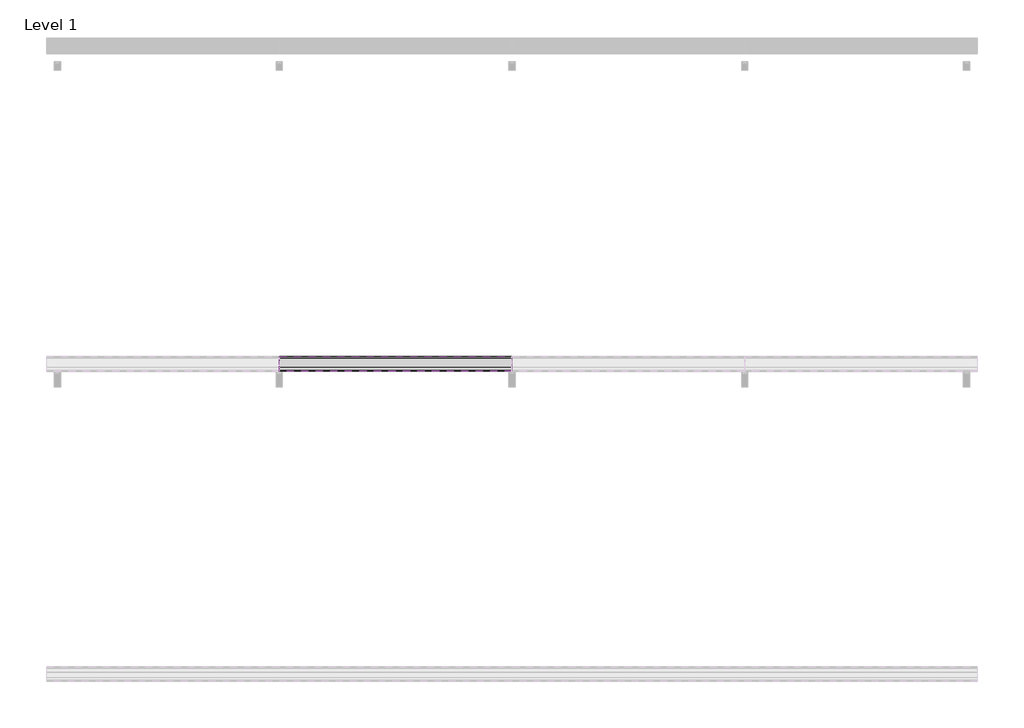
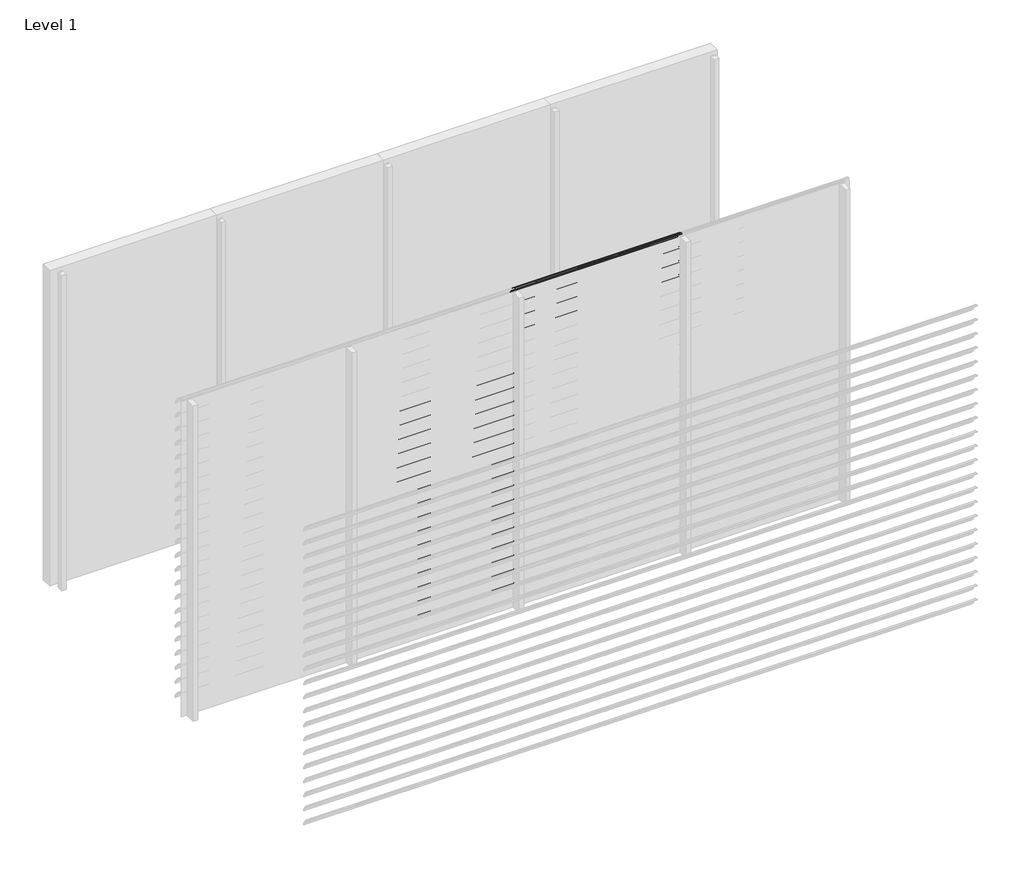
# One storey, part 22 of 57: 20 proxies.
"""IFC4 building model written with IfcOpenShell, lengths in millimetres."""

from ifc_helpers import new_model, si_unit, point, frame, frame_2d, origin, place, context, project, spatial, polyline, circle_curve, trimmed, segment, composite_curve, outline, extrude, element, save

model = new_model("IFC4")

# Units and contexts
model_context = context("Model", 3, world=origin())
ifc_project = project(units=[si_unit("LENGTHUNIT", "METRE", prefix="MILLI")], contexts=[model_context])

# Site, building, storey
site = spatial("IfcSite", under=ifc_project)
building = spatial("IfcBuilding", under=site)
storey = spatial("IfcBuildingStorey", under=building, Name="Level 1", Elevation=0.0)

# Proxies
placement = place(None, origin())
element("IfcBuildingElementProxy", 1, Name="Wall Sweeps", at=placement, inside=storey, context=model_context, shape_type="SweptSolid", body=[
    extrude(outline(composite_curve([segment(trimmed(circle_curve(frame_2d((-35993.7822526, 2218.4913792)), 4.2177474), [point((-35989.6985606, 2219.5462976))], [point((-35993.7822526, 2222.7091266))], False, "CARTESIAN"), True, "CONTINUOUS"), segment(trimmed(circle_curve(frame_2d((-36018.7150834, 2120.2536312)), 105.4456002), [point((-35993.7822526, 2222.7091266))], [point((-35971.7914298, 2214.6832099))], False, "CARTESIAN"), True, "CONTINUOUS"), segment(trimmed(circle_curve(frame_2d((-36061.7199745, 2066.0352476)), 173.7335887), [point((-35971.7914298, 2214.6832099))], [point((-35913.0720121, 2155.9637922))], False, "CARTESIAN"), True, "CONTINUOUS"), segment(trimmed(circle_curve(frame_2d((-36004.9297178, 2104.1860314)), 105.4456002), [point((-35913.0720121, 2155.9637922))], [point((-35903.6249616, 2133.4455765))], False, "CARTESIAN"), True, "CONTINUOUS"), segment(trimmed(circle_curve(frame_2d((-35907.809737, 2132.3307305)), 4.3307305), [point((-35903.6249616, 2133.4455765))], [point((-35909.0769196, 2128.189538))], False, "CARTESIAN"), True, "CONTINUOUS"), segment(polyline([(-35909.0769196, 2128.189538), (-35934.7401984, 2152.9722783)]), True, "CONTINUOUS"), segment(trimmed(circle_curve(frame_2d((-35931.3879574, 2155.2977626)), 4.079877), [point((-35934.7401984, 2152.9722783))], [point((-35930.7310597, 2159.3244091))], False, "CARTESIAN"), True, "CONTINUOUS"), segment(trimmed(circle_curve(frame_2d((-36014.6665585, 2137.2544323)), 86.7885467), [point((-35930.7310597, 2159.3244091))], [point((-35942.3028351, 2185.1683485))], True, "CARTESIAN"), True, "CONTINUOUS"), segment(polyline([(-35942.3028351, 2185.1683485), (-35940.7230099, 2187.9046861)]), True, "CONTINUOUS"), segment(trimmed(circle_curve(frame_2d((-36061.7199745, 2066.0352476)), 171.7335887), [point((-35940.7230099, 2187.9046861))], [point((-35972.7555872, 2212.9289618))], True, "CARTESIAN"), True, "CONTINUOUS"), segment(trimmed(circle_curve(frame_2d((-36018.7150834, 2120.2536312)), 103.4456002), [point((-35972.7555872, 2212.9289618))], [point((-35989.6985606, 2219.5462976))], True, "CARTESIAN"), True, "CONTINUOUS")], self_intersect=False)), frame((1500.0, 0.0, 0.0), z_axis=(1.0, 0.0, 0.0), x_axis=(0.0, 1.0, 0.0)), (0.0, 0.0, 1.0), 1500.0),
])
element("IfcBuildingElementProxy", 2, Name="Wall Sweeps", at=placement, inside=storey, context=model_context, shape_type="SweptSolid", body=[
    extrude(outline(composite_curve([segment(trimmed(circle_curve(frame_2d((-35993.7822526, 2085.4913792)), 4.2177474), [point((-35989.6985606, 2086.5462976))], [point((-35993.7822526, 2089.7091266))], False, "CARTESIAN"), True, "CONTINUOUS"), segment(trimmed(circle_curve(frame_2d((-36018.7150834, 1987.2536312)), 105.4456002), [point((-35993.7822526, 2089.7091266))], [point((-35971.7914298, 2081.6832099))], False, "CARTESIAN"), True, "CONTINUOUS"), segment(trimmed(circle_curve(frame_2d((-36061.7199745, 1933.0352476)), 173.7335887), [point((-35971.7914298, 2081.6832099))], [point((-35913.0720121, 2022.9637922))], False, "CARTESIAN"), True, "CONTINUOUS"), segment(trimmed(circle_curve(frame_2d((-36004.9297178, 1971.1860314)), 105.4456002), [point((-35913.0720121, 2022.9637922))], [point((-35903.6249616, 2000.4455765))], False, "CARTESIAN"), True, "CONTINUOUS"), segment(trimmed(circle_curve(frame_2d((-35907.809737, 1999.3307305)), 4.3307305), [point((-35903.6249616, 2000.4455765))], [point((-35909.0769196, 1995.189538))], False, "CARTESIAN"), True, "CONTINUOUS"), segment(polyline([(-35909.0769196, 1995.189538), (-35934.7401984, 2019.9722783)]), True, "CONTINUOUS"), segment(trimmed(circle_curve(frame_2d((-35931.3879574, 2022.2977626)), 4.079877), [point((-35934.7401984, 2019.9722783))], [point((-35930.7310597, 2026.3244091))], False, "CARTESIAN"), True, "CONTINUOUS"), segment(trimmed(circle_curve(frame_2d((-36014.6665585, 2004.2544323)), 86.7885467), [point((-35930.7310597, 2026.3244091))], [point((-35942.3028351, 2052.1683485))], True, "CARTESIAN"), True, "CONTINUOUS"), segment(polyline([(-35942.3028351, 2052.1683485), (-35940.7230099, 2054.9046861)]), True, "CONTINUOUS"), segment(trimmed(circle_curve(frame_2d((-36061.7199745, 1933.0352476)), 171.7335887), [point((-35940.7230099, 2054.9046861))], [point((-35972.7555872, 2079.9289618))], True, "CARTESIAN"), True, "CONTINUOUS"), segment(trimmed(circle_curve(frame_2d((-36018.7150834, 1987.2536312)), 103.4456002), [point((-35972.7555872, 2079.9289618))], [point((-35989.6985606, 2086.5462976))], True, "CARTESIAN"), True, "CONTINUOUS")], self_intersect=False)), frame((1500.0, 0.0, 0.0), z_axis=(1.0, 0.0, 0.0), x_axis=(0.0, 1.0, 0.0)), (0.0, 0.0, 1.0), 1500.0),
])
element("IfcBuildingElementProxy", 3, Name="Wall Sweeps", at=placement, inside=storey, context=model_context, shape_type="SweptSolid", body=[
    extrude(outline(composite_curve([segment(trimmed(circle_curve(frame_2d((-35993.7822526, 1952.4913792)), 4.2177474), [point((-35989.6985606, 1953.5462976))], [point((-35993.7822526, 1956.7091266))], False, "CARTESIAN"), True, "CONTINUOUS"), segment(trimmed(circle_curve(frame_2d((-36018.7150834, 1854.2536312)), 105.4456002), [point((-35993.7822526, 1956.7091266))], [point((-35971.7914298, 1948.6832099))], False, "CARTESIAN"), True, "CONTINUOUS"), segment(trimmed(circle_curve(frame_2d((-36061.7199745, 1800.0352476)), 173.7335887), [point((-35971.7914298, 1948.6832099))], [point((-35913.0720121, 1889.9637922))], False, "CARTESIAN"), True, "CONTINUOUS"), segment(trimmed(circle_curve(frame_2d((-36004.9297178, 1838.1860314)), 105.4456002), [point((-35913.0720121, 1889.9637922))], [point((-35903.6249616, 1867.4455765))], False, "CARTESIAN"), True, "CONTINUOUS"), segment(trimmed(circle_curve(frame_2d((-35907.809737, 1866.3307305)), 4.3307305), [point((-35903.6249616, 1867.4455765))], [point((-35909.0769196, 1862.189538))], False, "CARTESIAN"), True, "CONTINUOUS"), segment(polyline([(-35909.0769196, 1862.189538), (-35934.7401984, 1886.9722783)]), True, "CONTINUOUS"), segment(trimmed(circle_curve(frame_2d((-35931.3879574, 1889.2977626)), 4.079877), [point((-35934.7401984, 1886.9722783))], [point((-35930.7310597, 1893.3244091))], False, "CARTESIAN"), True, "CONTINUOUS"), segment(trimmed(circle_curve(frame_2d((-36014.6665585, 1871.2544323)), 86.7885467), [point((-35930.7310597, 1893.3244091))], [point((-35942.3028351, 1919.1683485))], True, "CARTESIAN"), True, "CONTINUOUS"), segment(polyline([(-35942.3028351, 1919.1683485), (-35940.7230099, 1921.9046861)]), True, "CONTINUOUS"), segment(trimmed(circle_curve(frame_2d((-36061.7199745, 1800.0352476)), 171.7335887), [point((-35940.7230099, 1921.9046861))], [point((-35972.7555872, 1946.9289618))], True, "CARTESIAN"), True, "CONTINUOUS"), segment(trimmed(circle_curve(frame_2d((-36018.7150834, 1854.2536312)), 103.4456002), [point((-35972.7555872, 1946.9289618))], [point((-35989.6985606, 1953.5462976))], True, "CARTESIAN"), True, "CONTINUOUS")], self_intersect=False)), frame((1500.0, 0.0, 0.0), z_axis=(1.0, 0.0, 0.0), x_axis=(0.0, 1.0, 0.0)), (0.0, 0.0, 1.0), 1500.0),
])
element("IfcBuildingElementProxy", 4, Name="Wall Sweeps", at=placement, inside=storey, context=model_context, shape_type="SweptSolid", body=[
    extrude(outline(composite_curve([segment(trimmed(circle_curve(frame_2d((-35993.7822526, 1819.4913792)), 4.2177474), [point((-35989.6985606, 1820.5462976))], [point((-35993.7822526, 1823.7091266))], False, "CARTESIAN"), True, "CONTINUOUS"), segment(trimmed(circle_curve(frame_2d((-36018.7150834, 1721.2536312)), 105.4456002), [point((-35993.7822526, 1823.7091266))], [point((-35971.7914298, 1815.6832099))], False, "CARTESIAN"), True, "CONTINUOUS"), segment(trimmed(circle_curve(frame_2d((-36061.7199745, 1667.0352476)), 173.7335887), [point((-35971.7914298, 1815.6832099))], [point((-35913.0720121, 1756.9637922))], False, "CARTESIAN"), True, "CONTINUOUS"), segment(trimmed(circle_curve(frame_2d((-36004.9297178, 1705.1860314)), 105.4456002), [point((-35913.0720121, 1756.9637922))], [point((-35903.6249616, 1734.4455765))], False, "CARTESIAN"), True, "CONTINUOUS"), segment(trimmed(circle_curve(frame_2d((-35907.809737, 1733.3307305)), 4.3307305), [point((-35903.6249616, 1734.4455765))], [point((-35909.0769196, 1729.189538))], False, "CARTESIAN"), True, "CONTINUOUS"), segment(polyline([(-35909.0769196, 1729.189538), (-35934.7401984, 1753.9722783)]), True, "CONTINUOUS"), segment(trimmed(circle_curve(frame_2d((-35931.3879574, 1756.2977626)), 4.079877), [point((-35934.7401984, 1753.9722783))], [point((-35930.7310597, 1760.3244091))], False, "CARTESIAN"), True, "CONTINUOUS"), segment(trimmed(circle_curve(frame_2d((-36014.6665585, 1738.2544323)), 86.7885467), [point((-35930.7310597, 1760.3244091))], [point((-35942.3028351, 1786.1683485))], True, "CARTESIAN"), True, "CONTINUOUS"), segment(polyline([(-35942.3028351, 1786.1683485), (-35940.7230099, 1788.9046861)]), True, "CONTINUOUS"), segment(trimmed(circle_curve(frame_2d((-36061.7199745, 1667.0352476)), 171.7335887), [point((-35940.7230099, 1788.9046861))], [point((-35972.7555872, 1813.9289618))], True, "CARTESIAN"), True, "CONTINUOUS"), segment(trimmed(circle_curve(frame_2d((-36018.7150834, 1721.2536312)), 103.4456002), [point((-35972.7555872, 1813.9289618))], [point((-35989.6985606, 1820.5462976))], True, "CARTESIAN"), True, "CONTINUOUS")], self_intersect=False)), frame((1500.0, 0.0, 0.0), z_axis=(1.0, 0.0, 0.0), x_axis=(0.0, 1.0, 0.0)), (0.0, 0.0, 1.0), 1500.0),
])
element("IfcBuildingElementProxy", 5, Name="Wall Sweeps", at=placement, inside=storey, context=model_context, shape_type="SweptSolid", body=[
    extrude(outline(composite_curve([segment(trimmed(circle_curve(frame_2d((-35993.7822526, 1686.4913792)), 4.2177474), [point((-35989.6985606, 1687.5462976))], [point((-35993.7822526, 1690.7091266))], False, "CARTESIAN"), True, "CONTINUOUS"), segment(trimmed(circle_curve(frame_2d((-36018.7150834, 1588.2536312)), 105.4456002), [point((-35993.7822526, 1690.7091266))], [point((-35971.7914298, 1682.6832099))], False, "CARTESIAN"), True, "CONTINUOUS"), segment(trimmed(circle_curve(frame_2d((-36061.7199745, 1534.0352476)), 173.7335887), [point((-35971.7914298, 1682.6832099))], [point((-35913.0720121, 1623.9637922))], False, "CARTESIAN"), True, "CONTINUOUS"), segment(trimmed(circle_curve(frame_2d((-36004.9297178, 1572.1860314)), 105.4456002), [point((-35913.0720121, 1623.9637922))], [point((-35903.6249616, 1601.4455765))], False, "CARTESIAN"), True, "CONTINUOUS"), segment(trimmed(circle_curve(frame_2d((-35907.809737, 1600.3307305)), 4.3307305), [point((-35903.6249616, 1601.4455765))], [point((-35909.0769196, 1596.189538))], False, "CARTESIAN"), True, "CONTINUOUS"), segment(polyline([(-35909.0769196, 1596.189538), (-35934.7401984, 1620.9722783)]), True, "CONTINUOUS"), segment(trimmed(circle_curve(frame_2d((-35931.3879574, 1623.2977626)), 4.079877), [point((-35934.7401984, 1620.9722783))], [point((-35930.7310597, 1627.3244091))], False, "CARTESIAN"), True, "CONTINUOUS"), segment(trimmed(circle_curve(frame_2d((-36014.6665585, 1605.2544323)), 86.7885467), [point((-35930.7310597, 1627.3244091))], [point((-35942.3028351, 1653.1683485))], True, "CARTESIAN"), True, "CONTINUOUS"), segment(polyline([(-35942.3028351, 1653.1683485), (-35940.7230099, 1655.9046861)]), True, "CONTINUOUS"), segment(trimmed(circle_curve(frame_2d((-36061.7199745, 1534.0352476)), 171.7335887), [point((-35940.7230099, 1655.9046861))], [point((-35972.7555872, 1680.9289618))], True, "CARTESIAN"), True, "CONTINUOUS"), segment(trimmed(circle_curve(frame_2d((-36018.7150834, 1588.2536312)), 103.4456002), [point((-35972.7555872, 1680.9289618))], [point((-35989.6985606, 1687.5462976))], True, "CARTESIAN"), True, "CONTINUOUS")], self_intersect=False)), frame((1500.0, 0.0, 0.0), z_axis=(1.0, 0.0, 0.0), x_axis=(0.0, 1.0, 0.0)), (0.0, 0.0, 1.0), 1500.0),
])
element("IfcBuildingElementProxy", 6, Name="Wall Sweeps", at=placement, inside=storey, context=model_context, shape_type="SweptSolid", body=[
    extrude(outline(composite_curve([segment(trimmed(circle_curve(frame_2d((-35993.7822526, 1553.4913792)), 4.2177474), [point((-35989.6985606, 1554.5462976))], [point((-35993.7822526, 1557.7091266))], False, "CARTESIAN"), True, "CONTINUOUS"), segment(trimmed(circle_curve(frame_2d((-36018.7150834, 1455.2536312)), 105.4456002), [point((-35993.7822526, 1557.7091266))], [point((-35971.7914298, 1549.6832099))], False, "CARTESIAN"), True, "CONTINUOUS"), segment(trimmed(circle_curve(frame_2d((-36061.7199745, 1401.0352476)), 173.7335887), [point((-35971.7914298, 1549.6832099))], [point((-35913.0720121, 1490.9637922))], False, "CARTESIAN"), True, "CONTINUOUS"), segment(trimmed(circle_curve(frame_2d((-36004.9297178, 1439.1860314)), 105.4456002), [point((-35913.0720121, 1490.9637922))], [point((-35903.6249616, 1468.4455765))], False, "CARTESIAN"), True, "CONTINUOUS"), segment(trimmed(circle_curve(frame_2d((-35907.809737, 1467.3307305)), 4.3307305), [point((-35903.6249616, 1468.4455765))], [point((-35909.0769196, 1463.189538))], False, "CARTESIAN"), True, "CONTINUOUS"), segment(polyline([(-35909.0769196, 1463.189538), (-35934.7401984, 1487.9722783)]), True, "CONTINUOUS"), segment(trimmed(circle_curve(frame_2d((-35931.3879574, 1490.2977626)), 4.079877), [point((-35934.7401984, 1487.9722783))], [point((-35930.7310597, 1494.3244091))], False, "CARTESIAN"), True, "CONTINUOUS"), segment(trimmed(circle_curve(frame_2d((-36014.6665585, 1472.2544323)), 86.7885467), [point((-35930.7310597, 1494.3244091))], [point((-35942.3028351, 1520.1683485))], True, "CARTESIAN"), True, "CONTINUOUS"), segment(polyline([(-35942.3028351, 1520.1683485), (-35940.7230099, 1522.9046861)]), True, "CONTINUOUS"), segment(trimmed(circle_curve(frame_2d((-36061.7199745, 1401.0352476)), 171.7335887), [point((-35940.7230099, 1522.9046861))], [point((-35972.7555872, 1547.9289618))], True, "CARTESIAN"), True, "CONTINUOUS"), segment(trimmed(circle_curve(frame_2d((-36018.7150834, 1455.2536312)), 103.4456002), [point((-35972.7555872, 1547.9289618))], [point((-35989.6985606, 1554.5462976))], True, "CARTESIAN"), True, "CONTINUOUS")], self_intersect=False)), frame((1500.0, 0.0, 0.0), z_axis=(1.0, 0.0, 0.0), x_axis=(0.0, 1.0, 0.0)), (0.0, 0.0, 1.0), 1500.0),
])
element("IfcBuildingElementProxy", 7, Name="Wall Sweeps", at=placement, inside=storey, context=model_context, shape_type="SweptSolid", body=[
    extrude(outline(composite_curve([segment(trimmed(circle_curve(frame_2d((-35993.7822526, 1420.4913792)), 4.2177474), [point((-35989.6985606, 1421.5462976))], [point((-35993.7822526, 1424.7091266))], False, "CARTESIAN"), True, "CONTINUOUS"), segment(trimmed(circle_curve(frame_2d((-36018.7150834, 1322.2536312)), 105.4456002), [point((-35993.7822526, 1424.7091266))], [point((-35971.7914298, 1416.6832099))], False, "CARTESIAN"), True, "CONTINUOUS"), segment(trimmed(circle_curve(frame_2d((-36061.7199745, 1268.0352476)), 173.7335887), [point((-35971.7914298, 1416.6832099))], [point((-35913.0720121, 1357.9637922))], False, "CARTESIAN"), True, "CONTINUOUS"), segment(trimmed(circle_curve(frame_2d((-36004.9297178, 1306.1860314)), 105.4456002), [point((-35913.0720121, 1357.9637922))], [point((-35903.6249616, 1335.4455765))], False, "CARTESIAN"), True, "CONTINUOUS"), segment(trimmed(circle_curve(frame_2d((-35907.809737, 1334.3307305)), 4.3307305), [point((-35903.6249616, 1335.4455765))], [point((-35909.0769196, 1330.189538))], False, "CARTESIAN"), True, "CONTINUOUS"), segment(polyline([(-35909.0769196, 1330.189538), (-35934.7401984, 1354.9722783)]), True, "CONTINUOUS"), segment(trimmed(circle_curve(frame_2d((-35931.3879574, 1357.2977626)), 4.079877), [point((-35934.7401984, 1354.9722783))], [point((-35930.7310597, 1361.3244091))], False, "CARTESIAN"), True, "CONTINUOUS"), segment(trimmed(circle_curve(frame_2d((-36014.6665585, 1339.2544323)), 86.7885467), [point((-35930.7310597, 1361.3244091))], [point((-35942.3028351, 1387.1683485))], True, "CARTESIAN"), True, "CONTINUOUS"), segment(polyline([(-35942.3028351, 1387.1683485), (-35940.7230099, 1389.9046861)]), True, "CONTINUOUS"), segment(trimmed(circle_curve(frame_2d((-36061.7199745, 1268.0352476)), 171.7335887), [point((-35940.7230099, 1389.9046861))], [point((-35972.7555872, 1414.9289618))], True, "CARTESIAN"), True, "CONTINUOUS"), segment(trimmed(circle_curve(frame_2d((-36018.7150834, 1322.2536312)), 103.4456002), [point((-35972.7555872, 1414.9289618))], [point((-35989.6985606, 1421.5462976))], True, "CARTESIAN"), True, "CONTINUOUS")], self_intersect=False)), frame((1500.0, 0.0, 0.0), z_axis=(1.0, 0.0, 0.0), x_axis=(0.0, 1.0, 0.0)), (0.0, 0.0, 1.0), 1500.0),
])
element("IfcBuildingElementProxy", 8, Name="Wall Sweeps", at=placement, inside=storey, context=model_context, shape_type="SweptSolid", body=[
    extrude(outline(composite_curve([segment(trimmed(circle_curve(frame_2d((-35993.7822526, 1287.4913792)), 4.2177474), [point((-35989.6985606, 1288.5462976))], [point((-35993.7822526, 1291.7091266))], False, "CARTESIAN"), True, "CONTINUOUS"), segment(trimmed(circle_curve(frame_2d((-36018.7150834, 1189.2536312)), 105.4456002), [point((-35993.7822526, 1291.7091266))], [point((-35971.7914298, 1283.6832099))], False, "CARTESIAN"), True, "CONTINUOUS"), segment(trimmed(circle_curve(frame_2d((-36061.7199745, 1135.0352476)), 173.7335887), [point((-35971.7914298, 1283.6832099))], [point((-35913.0720121, 1224.9637922))], False, "CARTESIAN"), True, "CONTINUOUS"), segment(trimmed(circle_curve(frame_2d((-36004.9297178, 1173.1860314)), 105.4456002), [point((-35913.0720121, 1224.9637922))], [point((-35903.6249616, 1202.4455765))], False, "CARTESIAN"), True, "CONTINUOUS"), segment(trimmed(circle_curve(frame_2d((-35907.809737, 1201.3307305)), 4.3307305), [point((-35903.6249616, 1202.4455765))], [point((-35909.0769196, 1197.189538))], False, "CARTESIAN"), True, "CONTINUOUS"), segment(polyline([(-35909.0769196, 1197.189538), (-35934.7401984, 1221.9722783)]), True, "CONTINUOUS"), segment(trimmed(circle_curve(frame_2d((-35931.3879574, 1224.2977626)), 4.079877), [point((-35934.7401984, 1221.9722783))], [point((-35930.7310597, 1228.3244091))], False, "CARTESIAN"), True, "CONTINUOUS"), segment(trimmed(circle_curve(frame_2d((-36014.6665585, 1206.2544323)), 86.7885467), [point((-35930.7310597, 1228.3244091))], [point((-35942.3028351, 1254.1683485))], True, "CARTESIAN"), True, "CONTINUOUS"), segment(polyline([(-35942.3028351, 1254.1683485), (-35940.7230099, 1256.9046861)]), True, "CONTINUOUS"), segment(trimmed(circle_curve(frame_2d((-36061.7199745, 1135.0352476)), 171.7335887), [point((-35940.7230099, 1256.9046861))], [point((-35972.7555872, 1281.9289618))], True, "CARTESIAN"), True, "CONTINUOUS"), segment(trimmed(circle_curve(frame_2d((-36018.7150834, 1189.2536312)), 103.4456002), [point((-35972.7555872, 1281.9289618))], [point((-35989.6985606, 1288.5462976))], True, "CARTESIAN"), True, "CONTINUOUS")], self_intersect=False)), frame((1500.0, 0.0, 0.0), z_axis=(1.0, 0.0, 0.0), x_axis=(0.0, 1.0, 0.0)), (0.0, 0.0, 1.0), 1500.0),
])
element("IfcBuildingElementProxy", 9, Name="Wall Sweeps", at=placement, inside=storey, context=model_context, shape_type="SweptSolid", body=[
    extrude(outline(composite_curve([segment(trimmed(circle_curve(frame_2d((-35993.7822526, 1154.4913792)), 4.2177474), [point((-35989.6985606, 1155.5462976))], [point((-35993.7822526, 1158.7091266))], False, "CARTESIAN"), True, "CONTINUOUS"), segment(trimmed(circle_curve(frame_2d((-36018.7150834, 1056.2536312)), 105.4456002), [point((-35993.7822526, 1158.7091266))], [point((-35971.7914298, 1150.6832099))], False, "CARTESIAN"), True, "CONTINUOUS"), segment(trimmed(circle_curve(frame_2d((-36061.7199745, 1002.0352476)), 173.7335887), [point((-35971.7914298, 1150.6832099))], [point((-35913.0720121, 1091.9637922))], False, "CARTESIAN"), True, "CONTINUOUS"), segment(trimmed(circle_curve(frame_2d((-36004.9297178, 1040.1860314)), 105.4456002), [point((-35913.0720121, 1091.9637922))], [point((-35903.6249616, 1069.4455765))], False, "CARTESIAN"), True, "CONTINUOUS"), segment(trimmed(circle_curve(frame_2d((-35907.809737, 1068.3307305)), 4.3307305), [point((-35903.6249616, 1069.4455765))], [point((-35909.0769196, 1064.189538))], False, "CARTESIAN"), True, "CONTINUOUS"), segment(polyline([(-35909.0769196, 1064.189538), (-35934.7401984, 1088.9722783)]), True, "CONTINUOUS"), segment(trimmed(circle_curve(frame_2d((-35931.3879574, 1091.2977626)), 4.079877), [point((-35934.7401984, 1088.9722783))], [point((-35930.7310597, 1095.3244091))], False, "CARTESIAN"), True, "CONTINUOUS"), segment(trimmed(circle_curve(frame_2d((-36014.6665585, 1073.2544323)), 86.7885467), [point((-35930.7310597, 1095.3244091))], [point((-35942.3028351, 1121.1683485))], True, "CARTESIAN"), True, "CONTINUOUS"), segment(polyline([(-35942.3028351, 1121.1683485), (-35940.7230099, 1123.9046861)]), True, "CONTINUOUS"), segment(trimmed(circle_curve(frame_2d((-36061.7199745, 1002.0352476)), 171.7335887), [point((-35940.7230099, 1123.9046861))], [point((-35972.7555872, 1148.9289618))], True, "CARTESIAN"), True, "CONTINUOUS"), segment(trimmed(circle_curve(frame_2d((-36018.7150834, 1056.2536312)), 103.4456002), [point((-35972.7555872, 1148.9289618))], [point((-35989.6985606, 1155.5462976))], True, "CARTESIAN"), True, "CONTINUOUS")], self_intersect=False)), frame((1500.0, 0.0, 0.0), z_axis=(1.0, 0.0, 0.0), x_axis=(0.0, 1.0, 0.0)), (0.0, 0.0, 1.0), 1500.0),
])
element("IfcBuildingElementProxy", 10, Name="Wall Sweeps", at=placement, inside=storey, context=model_context, shape_type="SweptSolid", body=[
    extrude(outline(composite_curve([segment(trimmed(circle_curve(frame_2d((-35993.7822526, 1021.4913792)), 4.2177474), [point((-35989.6985606, 1022.5462976))], [point((-35993.7822526, 1025.7091266))], False, "CARTESIAN"), True, "CONTINUOUS"), segment(trimmed(circle_curve(frame_2d((-36018.7150834, 923.2536312)), 105.4456002), [point((-35993.7822526, 1025.7091266))], [point((-35971.7914298, 1017.6832099))], False, "CARTESIAN"), True, "CONTINUOUS"), segment(trimmed(circle_curve(frame_2d((-36061.7199745, 869.0352476)), 173.7335887), [point((-35971.7914298, 1017.6832099))], [point((-35913.0720121, 958.9637922))], False, "CARTESIAN"), True, "CONTINUOUS"), segment(trimmed(circle_curve(frame_2d((-36004.9297178, 907.1860314)), 105.4456002), [point((-35913.0720121, 958.9637922))], [point((-35903.6249616, 936.4455765))], False, "CARTESIAN"), True, "CONTINUOUS"), segment(trimmed(circle_curve(frame_2d((-35907.809737, 935.3307305)), 4.3307305), [point((-35903.6249616, 936.4455765))], [point((-35909.0769196, 931.189538))], False, "CARTESIAN"), True, "CONTINUOUS"), segment(polyline([(-35909.0769196, 931.189538), (-35934.7401984, 955.9722783)]), True, "CONTINUOUS"), segment(trimmed(circle_curve(frame_2d((-35931.3879574, 958.2977626)), 4.079877), [point((-35934.7401984, 955.9722783))], [point((-35930.7310597, 962.3244091))], False, "CARTESIAN"), True, "CONTINUOUS"), segment(trimmed(circle_curve(frame_2d((-36014.6665585, 940.2544323)), 86.7885467), [point((-35930.7310597, 962.3244091))], [point((-35942.3028351, 988.1683485))], True, "CARTESIAN"), True, "CONTINUOUS"), segment(polyline([(-35942.3028351, 988.1683485), (-35940.7230099, 990.9046861)]), True, "CONTINUOUS"), segment(trimmed(circle_curve(frame_2d((-36061.7199745, 869.0352476)), 171.7335887), [point((-35940.7230099, 990.9046861))], [point((-35972.7555872, 1015.9289618))], True, "CARTESIAN"), True, "CONTINUOUS"), segment(trimmed(circle_curve(frame_2d((-36018.7150834, 923.2536312)), 103.4456002), [point((-35972.7555872, 1015.9289618))], [point((-35989.6985606, 1022.5462976))], True, "CARTESIAN"), True, "CONTINUOUS")], self_intersect=False)), frame((1500.0, 0.0, 0.0), z_axis=(1.0, 0.0, 0.0), x_axis=(0.0, 1.0, 0.0)), (0.0, 0.0, 1.0), 1500.0),
])
element("IfcBuildingElementProxy", 11, Name="Wall Sweeps", at=placement, inside=storey, context=model_context, shape_type="SweptSolid", body=[
    extrude(outline(composite_curve([segment(trimmed(circle_curve(frame_2d((-35993.7822526, 888.4913792)), 4.2177474), [point((-35989.6985606, 889.5462976))], [point((-35993.7822526, 892.7091266))], False, "CARTESIAN"), True, "CONTINUOUS"), segment(trimmed(circle_curve(frame_2d((-36018.7150834, 790.2536312)), 105.4456002), [point((-35993.7822526, 892.7091266))], [point((-35971.7914298, 884.6832099))], False, "CARTESIAN"), True, "CONTINUOUS"), segment(trimmed(circle_curve(frame_2d((-36061.7199745, 736.0352476)), 173.7335887), [point((-35971.7914298, 884.6832099))], [point((-35913.0720121, 825.9637922))], False, "CARTESIAN"), True, "CONTINUOUS"), segment(trimmed(circle_curve(frame_2d((-36004.9297178, 774.1860314)), 105.4456002), [point((-35913.0720121, 825.9637922))], [point((-35903.6249616, 803.4455765))], False, "CARTESIAN"), True, "CONTINUOUS"), segment(trimmed(circle_curve(frame_2d((-35907.809737, 802.3307305)), 4.3307305), [point((-35903.6249616, 803.4455765))], [point((-35909.0769196, 798.189538))], False, "CARTESIAN"), True, "CONTINUOUS"), segment(polyline([(-35909.0769196, 798.189538), (-35934.7401984, 822.9722783)]), True, "CONTINUOUS"), segment(trimmed(circle_curve(frame_2d((-35931.3879574, 825.2977626)), 4.079877), [point((-35934.7401984, 822.9722783))], [point((-35930.7310597, 829.3244091))], False, "CARTESIAN"), True, "CONTINUOUS"), segment(trimmed(circle_curve(frame_2d((-36014.6665585, 807.2544323)), 86.7885467), [point((-35930.7310597, 829.3244091))], [point((-35942.3028351, 855.1683485))], True, "CARTESIAN"), True, "CONTINUOUS"), segment(polyline([(-35942.3028351, 855.1683485), (-35940.7230099, 857.9046861)]), True, "CONTINUOUS"), segment(trimmed(circle_curve(frame_2d((-36061.7199745, 736.0352476)), 171.7335887), [point((-35940.7230099, 857.9046861))], [point((-35972.7555872, 882.9289618))], True, "CARTESIAN"), True, "CONTINUOUS"), segment(trimmed(circle_curve(frame_2d((-36018.7150834, 790.2536312)), 103.4456002), [point((-35972.7555872, 882.9289618))], [point((-35989.6985606, 889.5462976))], True, "CARTESIAN"), True, "CONTINUOUS")], self_intersect=False)), frame((1500.0, 0.0, 0.0), z_axis=(1.0, 0.0, 0.0), x_axis=(0.0, 1.0, 0.0)), (0.0, 0.0, 1.0), 1500.0),
])
element("IfcBuildingElementProxy", 12, Name="Wall Sweeps", at=placement, inside=storey, context=model_context, shape_type="SweptSolid", body=[
    extrude(outline(composite_curve([segment(trimmed(circle_curve(frame_2d((-35993.7822526, 755.4913792)), 4.2177474), [point((-35989.6985606, 756.5462976))], [point((-35993.7822526, 759.7091266))], False, "CARTESIAN"), True, "CONTINUOUS"), segment(trimmed(circle_curve(frame_2d((-36018.7150834, 657.2536312)), 105.4456002), [point((-35993.7822526, 759.7091266))], [point((-35971.7914298, 751.6832099))], False, "CARTESIAN"), True, "CONTINUOUS"), segment(trimmed(circle_curve(frame_2d((-36061.7199745, 603.0352476)), 173.7335887), [point((-35971.7914298, 751.6832099))], [point((-35913.0720121, 692.9637922))], False, "CARTESIAN"), True, "CONTINUOUS"), segment(trimmed(circle_curve(frame_2d((-36004.9297178, 641.1860314)), 105.4456002), [point((-35913.0720121, 692.9637922))], [point((-35903.6249616, 670.4455765))], False, "CARTESIAN"), True, "CONTINUOUS"), segment(trimmed(circle_curve(frame_2d((-35907.809737, 669.3307305)), 4.3307305), [point((-35903.6249616, 670.4455765))], [point((-35909.0769196, 665.189538))], False, "CARTESIAN"), True, "CONTINUOUS"), segment(polyline([(-35909.0769196, 665.189538), (-35934.7401984, 689.9722783)]), True, "CONTINUOUS"), segment(trimmed(circle_curve(frame_2d((-35931.3879574, 692.2977626)), 4.079877), [point((-35934.7401984, 689.9722783))], [point((-35930.7310597, 696.3244091))], False, "CARTESIAN"), True, "CONTINUOUS"), segment(trimmed(circle_curve(frame_2d((-36014.6665585, 674.2544323)), 86.7885467), [point((-35930.7310597, 696.3244091))], [point((-35942.3028351, 722.1683485))], True, "CARTESIAN"), True, "CONTINUOUS"), segment(polyline([(-35942.3028351, 722.1683485), (-35940.7230099, 724.9046861)]), True, "CONTINUOUS"), segment(trimmed(circle_curve(frame_2d((-36061.7199745, 603.0352476)), 171.7335887), [point((-35940.7230099, 724.9046861))], [point((-35972.7555872, 749.9289618))], True, "CARTESIAN"), True, "CONTINUOUS"), segment(trimmed(circle_curve(frame_2d((-36018.7150834, 657.2536312)), 103.4456002), [point((-35972.7555872, 749.9289618))], [point((-35989.6985606, 756.5462976))], True, "CARTESIAN"), True, "CONTINUOUS")], self_intersect=False)), frame((1500.0, 0.0, 0.0), z_axis=(1.0, 0.0, 0.0), x_axis=(0.0, 1.0, 0.0)), (0.0, 0.0, 1.0), 1500.0),
])
element("IfcBuildingElementProxy", 13, Name="Wall Sweeps", at=placement, inside=storey, context=model_context, shape_type="SweptSolid", body=[
    extrude(outline(composite_curve([segment(trimmed(circle_curve(frame_2d((-35993.7822526, 622.4913792)), 4.2177474), [point((-35989.6985606, 623.5462976))], [point((-35993.7822526, 626.7091266))], False, "CARTESIAN"), True, "CONTINUOUS"), segment(trimmed(circle_curve(frame_2d((-36018.7150834, 524.2536312)), 105.4456002), [point((-35993.7822526, 626.7091266))], [point((-35971.7914298, 618.6832099))], False, "CARTESIAN"), True, "CONTINUOUS"), segment(trimmed(circle_curve(frame_2d((-36061.7199745, 470.0352476)), 173.7335887), [point((-35971.7914298, 618.6832099))], [point((-35913.0720121, 559.9637922))], False, "CARTESIAN"), True, "CONTINUOUS"), segment(trimmed(circle_curve(frame_2d((-36004.9297178, 508.1860314)), 105.4456002), [point((-35913.0720121, 559.9637922))], [point((-35903.6249616, 537.4455765))], False, "CARTESIAN"), True, "CONTINUOUS"), segment(trimmed(circle_curve(frame_2d((-35907.809737, 536.3307305)), 4.3307305), [point((-35903.6249616, 537.4455765))], [point((-35909.0769196, 532.189538))], False, "CARTESIAN"), True, "CONTINUOUS"), segment(polyline([(-35909.0769196, 532.189538), (-35934.7401984, 556.9722783)]), True, "CONTINUOUS"), segment(trimmed(circle_curve(frame_2d((-35931.3879574, 559.2977626)), 4.079877), [point((-35934.7401984, 556.9722783))], [point((-35930.7310597, 563.3244091))], False, "CARTESIAN"), True, "CONTINUOUS"), segment(trimmed(circle_curve(frame_2d((-36014.6665585, 541.2544323)), 86.7885467), [point((-35930.7310597, 563.3244091))], [point((-35942.3028351, 589.1683485))], True, "CARTESIAN"), True, "CONTINUOUS"), segment(polyline([(-35942.3028351, 589.1683485), (-35940.7230099, 591.9046861)]), True, "CONTINUOUS"), segment(trimmed(circle_curve(frame_2d((-36061.7199745, 470.0352476)), 171.7335887), [point((-35940.7230099, 591.9046861))], [point((-35972.7555872, 616.9289618))], True, "CARTESIAN"), True, "CONTINUOUS"), segment(trimmed(circle_curve(frame_2d((-36018.7150834, 524.2536312)), 103.4456002), [point((-35972.7555872, 616.9289618))], [point((-35989.6985606, 623.5462976))], True, "CARTESIAN"), True, "CONTINUOUS")], self_intersect=False)), frame((1500.0, 0.0, 0.0), z_axis=(1.0, 0.0, 0.0), x_axis=(0.0, 1.0, 0.0)), (0.0, 0.0, 1.0), 1500.0),
])
element("IfcBuildingElementProxy", 14, Name="Wall Sweeps", at=placement, inside=storey, context=model_context, shape_type="SweptSolid", body=[
    extrude(outline(composite_curve([segment(trimmed(circle_curve(frame_2d((-35993.7822526, 489.4913792)), 4.2177474), [point((-35989.6985606, 490.5462976))], [point((-35993.7822526, 493.7091266))], False, "CARTESIAN"), True, "CONTINUOUS"), segment(trimmed(circle_curve(frame_2d((-36018.7150834, 391.2536312)), 105.4456002), [point((-35993.7822526, 493.7091266))], [point((-35971.7914298, 485.6832099))], False, "CARTESIAN"), True, "CONTINUOUS"), segment(trimmed(circle_curve(frame_2d((-36061.7199745, 337.0352476)), 173.7335887), [point((-35971.7914298, 485.6832099))], [point((-35913.0720121, 426.9637922))], False, "CARTESIAN"), True, "CONTINUOUS"), segment(trimmed(circle_curve(frame_2d((-36004.9297178, 375.1860314)), 105.4456002), [point((-35913.0720121, 426.9637922))], [point((-35903.6249616, 404.4455765))], False, "CARTESIAN"), True, "CONTINUOUS"), segment(trimmed(circle_curve(frame_2d((-35907.809737, 403.3307305)), 4.3307305), [point((-35903.6249616, 404.4455765))], [point((-35909.0769196, 399.189538))], False, "CARTESIAN"), True, "CONTINUOUS"), segment(polyline([(-35909.0769196, 399.189538), (-35934.7401984, 423.9722783)]), True, "CONTINUOUS"), segment(trimmed(circle_curve(frame_2d((-35931.3879574, 426.2977626)), 4.079877), [point((-35934.7401984, 423.9722783))], [point((-35930.7310597, 430.3244091))], False, "CARTESIAN"), True, "CONTINUOUS"), segment(trimmed(circle_curve(frame_2d((-36014.6665585, 408.2544323)), 86.7885467), [point((-35930.7310597, 430.3244091))], [point((-35942.3028351, 456.1683485))], True, "CARTESIAN"), True, "CONTINUOUS"), segment(polyline([(-35942.3028351, 456.1683485), (-35940.7230099, 458.9046861)]), True, "CONTINUOUS"), segment(trimmed(circle_curve(frame_2d((-36061.7199745, 337.0352476)), 171.7335887), [point((-35940.7230099, 458.9046861))], [point((-35972.7555872, 483.9289618))], True, "CARTESIAN"), True, "CONTINUOUS"), segment(trimmed(circle_curve(frame_2d((-36018.7150834, 391.2536312)), 103.4456002), [point((-35972.7555872, 483.9289618))], [point((-35989.6985606, 490.5462976))], True, "CARTESIAN"), True, "CONTINUOUS")], self_intersect=False)), frame((1500.0, 0.0, 0.0), z_axis=(1.0, 0.0, 0.0), x_axis=(0.0, 1.0, 0.0)), (0.0, 0.0, 1.0), 1500.0),
])
element("IfcBuildingElementProxy", 15, Name="Wall Sweeps", at=placement, inside=storey, context=model_context, shape_type="SweptSolid", body=[
    extrude(outline(composite_curve([segment(trimmed(circle_curve(frame_2d((-35993.7822526, 356.4913792)), 4.2177474), [point((-35989.6985606, 357.5462976))], [point((-35993.7822526, 360.7091266))], False, "CARTESIAN"), True, "CONTINUOUS"), segment(trimmed(circle_curve(frame_2d((-36018.7150834, 258.2536312)), 105.4456002), [point((-35993.7822526, 360.7091266))], [point((-35971.7914298, 352.6832099))], False, "CARTESIAN"), True, "CONTINUOUS"), segment(trimmed(circle_curve(frame_2d((-36061.7199745, 204.0352476)), 173.7335887), [point((-35971.7914298, 352.6832099))], [point((-35913.0720121, 293.9637922))], False, "CARTESIAN"), True, "CONTINUOUS"), segment(trimmed(circle_curve(frame_2d((-36004.9297178, 242.1860314)), 105.4456002), [point((-35913.0720121, 293.9637922))], [point((-35903.6249616, 271.4455765))], False, "CARTESIAN"), True, "CONTINUOUS"), segment(trimmed(circle_curve(frame_2d((-35907.809737, 270.3307305)), 4.3307305), [point((-35903.6249616, 271.4455765))], [point((-35909.0769196, 266.189538))], False, "CARTESIAN"), True, "CONTINUOUS"), segment(polyline([(-35909.0769196, 266.189538), (-35934.7401984, 290.9722783)]), True, "CONTINUOUS"), segment(trimmed(circle_curve(frame_2d((-35931.3879574, 293.2977626)), 4.079877), [point((-35934.7401984, 290.9722783))], [point((-35930.7310597, 297.3244091))], False, "CARTESIAN"), True, "CONTINUOUS"), segment(trimmed(circle_curve(frame_2d((-36014.6665585, 275.2544323)), 86.7885467), [point((-35930.7310597, 297.3244091))], [point((-35942.3028351, 323.1683485))], True, "CARTESIAN"), True, "CONTINUOUS"), segment(polyline([(-35942.3028351, 323.1683485), (-35940.7230099, 325.9046861)]), True, "CONTINUOUS"), segment(trimmed(circle_curve(frame_2d((-36061.7199745, 204.0352476)), 171.7335887), [point((-35940.7230099, 325.9046861))], [point((-35972.7555872, 350.9289618))], True, "CARTESIAN"), True, "CONTINUOUS"), segment(trimmed(circle_curve(frame_2d((-36018.7150834, 258.2536312)), 103.4456002), [point((-35972.7555872, 350.9289618))], [point((-35989.6985606, 357.5462976))], True, "CARTESIAN"), True, "CONTINUOUS")], self_intersect=False)), frame((1500.0, 0.0, 0.0), z_axis=(1.0, 0.0, 0.0), x_axis=(0.0, 1.0, 0.0)), (0.0, 0.0, 1.0), 1500.0),
])
element("IfcBuildingElementProxy", 16, Name="Wall Sweeps", at=placement, inside=storey, context=model_context, shape_type="SweptSolid", body=[
    extrude(outline(composite_curve([segment(trimmed(circle_curve(frame_2d((-35993.7822526, 223.4913792)), 4.2177474), [point((-35989.6985606, 224.5462976))], [point((-35993.7822526, 227.7091266))], False, "CARTESIAN"), True, "CONTINUOUS"), segment(trimmed(circle_curve(frame_2d((-36018.7150834, 125.2536312)), 105.4456002), [point((-35993.7822526, 227.7091266))], [point((-35971.7914298, 219.6832099))], False, "CARTESIAN"), True, "CONTINUOUS"), segment(trimmed(circle_curve(frame_2d((-36061.7199745, 71.0352476)), 173.7335887), [point((-35971.7914298, 219.6832099))], [point((-35913.0720121, 160.9637922))], False, "CARTESIAN"), True, "CONTINUOUS"), segment(trimmed(circle_curve(frame_2d((-36004.9297178, 109.1860314)), 105.4456002), [point((-35913.0720121, 160.9637922))], [point((-35903.6249616, 138.4455765))], False, "CARTESIAN"), True, "CONTINUOUS"), segment(trimmed(circle_curve(frame_2d((-35907.809737, 137.3307305)), 4.3307305), [point((-35903.6249616, 138.4455765))], [point((-35909.0769196, 133.189538))], False, "CARTESIAN"), True, "CONTINUOUS"), segment(polyline([(-35909.0769196, 133.189538), (-35934.7401984, 157.9722783)]), True, "CONTINUOUS"), segment(trimmed(circle_curve(frame_2d((-35931.3879574, 160.2977626)), 4.079877), [point((-35934.7401984, 157.9722783))], [point((-35930.7310597, 164.3244091))], False, "CARTESIAN"), True, "CONTINUOUS"), segment(trimmed(circle_curve(frame_2d((-36014.6665585, 142.2544323)), 86.7885467), [point((-35930.7310597, 164.3244091))], [point((-35942.3028351, 190.1683485))], True, "CARTESIAN"), True, "CONTINUOUS"), segment(polyline([(-35942.3028351, 190.1683485), (-35940.7230099, 192.9046861)]), True, "CONTINUOUS"), segment(trimmed(circle_curve(frame_2d((-36061.7199745, 71.0352476)), 171.7335887), [point((-35940.7230099, 192.9046861))], [point((-35972.7555872, 217.9289618))], True, "CARTESIAN"), True, "CONTINUOUS"), segment(trimmed(circle_curve(frame_2d((-36018.7150834, 125.2536312)), 103.4456002), [point((-35972.7555872, 217.9289618))], [point((-35989.6985606, 224.5462976))], True, "CARTESIAN"), True, "CONTINUOUS")], self_intersect=False)), frame((1500.0, 0.0, 0.0), z_axis=(1.0, 0.0, 0.0), x_axis=(0.0, 1.0, 0.0)), (0.0, 0.0, 1.0), 1500.0),
])
element("IfcBuildingElementProxy", 17, Name="Wall Sweeps", at=placement, inside=storey, context=model_context, shape_type="SweptSolid", body=[
    extrude(outline(composite_curve([segment(trimmed(circle_curve(frame_2d((-35993.7822526, 3016.4913792)), 4.2177474), [point((-35989.6985606, 3017.5462976))], [point((-35993.7822526, 3020.7091266))], False, "CARTESIAN"), True, "CONTINUOUS"), segment(trimmed(circle_curve(frame_2d((-36018.7150834, 2918.2536312)), 105.4456002), [point((-35993.7822526, 3020.7091266))], [point((-35971.7914298, 3012.6832099))], False, "CARTESIAN"), True, "CONTINUOUS"), segment(trimmed(circle_curve(frame_2d((-36061.7199745, 2864.0352476)), 173.7335887), [point((-35971.7914298, 3012.6832099))], [point((-35913.0720121, 2953.9637922))], False, "CARTESIAN"), True, "CONTINUOUS"), segment(trimmed(circle_curve(frame_2d((-36004.9297178, 2902.1860314)), 105.4456002), [point((-35913.0720121, 2953.9637922))], [point((-35903.6249616, 2931.4455765))], False, "CARTESIAN"), True, "CONTINUOUS"), segment(trimmed(circle_curve(frame_2d((-35907.809737, 2930.3307305)), 4.3307305), [point((-35903.6249616, 2931.4455765))], [point((-35909.0769196, 2926.189538))], False, "CARTESIAN"), True, "CONTINUOUS"), segment(polyline([(-35909.0769196, 2926.189538), (-35934.7401984, 2950.9722783)]), True, "CONTINUOUS"), segment(trimmed(circle_curve(frame_2d((-35931.3879574, 2953.2977626)), 4.079877), [point((-35934.7401984, 2950.9722783))], [point((-35930.7310597, 2957.3244091))], False, "CARTESIAN"), True, "CONTINUOUS"), segment(trimmed(circle_curve(frame_2d((-36014.6665585, 2935.2544323)), 86.7885467), [point((-35930.7310597, 2957.3244091))], [point((-35942.3028351, 2983.1683485))], True, "CARTESIAN"), True, "CONTINUOUS"), segment(polyline([(-35942.3028351, 2983.1683485), (-35940.7230099, 2985.9046861)]), True, "CONTINUOUS"), segment(trimmed(circle_curve(frame_2d((-36061.7199745, 2864.0352476)), 171.7335887), [point((-35940.7230099, 2985.9046861))], [point((-35972.7555872, 3010.9289618))], True, "CARTESIAN"), True, "CONTINUOUS"), segment(trimmed(circle_curve(frame_2d((-36018.7150834, 2918.2536312)), 103.4456002), [point((-35972.7555872, 3010.9289618))], [point((-35989.6985606, 3017.5462976))], True, "CARTESIAN"), True, "CONTINUOUS")], self_intersect=False)), frame((3000.0, 0.0, 0.0), z_axis=(1.0, 0.0, 0.0), x_axis=(0.0, 1.0, 0.0)), (0.0, 0.0, 1.0), 1500.0),
])
element("IfcBuildingElementProxy", 18, Name="Wall Sweeps", at=placement, inside=storey, context=model_context, shape_type="SweptSolid", body=[
    extrude(outline(composite_curve([segment(trimmed(circle_curve(frame_2d((-35993.7822526, 2883.4913792)), 4.2177474), [point((-35989.6985606, 2884.5462976))], [point((-35993.7822526, 2887.7091266))], False, "CARTESIAN"), True, "CONTINUOUS"), segment(trimmed(circle_curve(frame_2d((-36018.7150834, 2785.2536312)), 105.4456002), [point((-35993.7822526, 2887.7091266))], [point((-35971.7914298, 2879.6832099))], False, "CARTESIAN"), True, "CONTINUOUS"), segment(trimmed(circle_curve(frame_2d((-36061.7199745, 2731.0352476)), 173.7335887), [point((-35971.7914298, 2879.6832099))], [point((-35913.0720121, 2820.9637922))], False, "CARTESIAN"), True, "CONTINUOUS"), segment(trimmed(circle_curve(frame_2d((-36004.9297178, 2769.1860314)), 105.4456002), [point((-35913.0720121, 2820.9637922))], [point((-35903.6249616, 2798.4455765))], False, "CARTESIAN"), True, "CONTINUOUS"), segment(trimmed(circle_curve(frame_2d((-35907.809737, 2797.3307305)), 4.3307305), [point((-35903.6249616, 2798.4455765))], [point((-35909.0769196, 2793.189538))], False, "CARTESIAN"), True, "CONTINUOUS"), segment(polyline([(-35909.0769196, 2793.189538), (-35934.7401984, 2817.9722783)]), True, "CONTINUOUS"), segment(trimmed(circle_curve(frame_2d((-35931.3879574, 2820.2977626)), 4.079877), [point((-35934.7401984, 2817.9722783))], [point((-35930.7310597, 2824.3244091))], False, "CARTESIAN"), True, "CONTINUOUS"), segment(trimmed(circle_curve(frame_2d((-36014.6665585, 2802.2544323)), 86.7885467), [point((-35930.7310597, 2824.3244091))], [point((-35942.3028351, 2850.1683485))], True, "CARTESIAN"), True, "CONTINUOUS"), segment(polyline([(-35942.3028351, 2850.1683485), (-35940.7230099, 2852.9046861)]), True, "CONTINUOUS"), segment(trimmed(circle_curve(frame_2d((-36061.7199745, 2731.0352476)), 171.7335887), [point((-35940.7230099, 2852.9046861))], [point((-35972.7555872, 2877.9289618))], True, "CARTESIAN"), True, "CONTINUOUS"), segment(trimmed(circle_curve(frame_2d((-36018.7150834, 2785.2536312)), 103.4456002), [point((-35972.7555872, 2877.9289618))], [point((-35989.6985606, 2884.5462976))], True, "CARTESIAN"), True, "CONTINUOUS")], self_intersect=False)), frame((3000.0, 0.0, 0.0), z_axis=(1.0, 0.0, 0.0), x_axis=(0.0, 1.0, 0.0)), (0.0, 0.0, 1.0), 1500.0),
])
element("IfcBuildingElementProxy", 19, Name="Wall Sweeps", at=placement, inside=storey, context=model_context, shape_type="SweptSolid", body=[
    extrude(outline(composite_curve([segment(trimmed(circle_curve(frame_2d((-35993.7822526, 2750.4913792)), 4.2177474), [point((-35989.6985606, 2751.5462976))], [point((-35993.7822526, 2754.7091266))], False, "CARTESIAN"), True, "CONTINUOUS"), segment(trimmed(circle_curve(frame_2d((-36018.7150834, 2652.2536312)), 105.4456002), [point((-35993.7822526, 2754.7091266))], [point((-35971.7914298, 2746.6832099))], False, "CARTESIAN"), True, "CONTINUOUS"), segment(trimmed(circle_curve(frame_2d((-36061.7199745, 2598.0352476)), 173.7335887), [point((-35971.7914298, 2746.6832099))], [point((-35913.0720121, 2687.9637922))], False, "CARTESIAN"), True, "CONTINUOUS"), segment(trimmed(circle_curve(frame_2d((-36004.9297178, 2636.1860314)), 105.4456002), [point((-35913.0720121, 2687.9637922))], [point((-35903.6249616, 2665.4455765))], False, "CARTESIAN"), True, "CONTINUOUS"), segment(trimmed(circle_curve(frame_2d((-35907.809737, 2664.3307305)), 4.3307305), [point((-35903.6249616, 2665.4455765))], [point((-35909.0769196, 2660.189538))], False, "CARTESIAN"), True, "CONTINUOUS"), segment(polyline([(-35909.0769196, 2660.189538), (-35934.7401984, 2684.9722783)]), True, "CONTINUOUS"), segment(trimmed(circle_curve(frame_2d((-35931.3879574, 2687.2977626)), 4.079877), [point((-35934.7401984, 2684.9722783))], [point((-35930.7310597, 2691.3244091))], False, "CARTESIAN"), True, "CONTINUOUS"), segment(trimmed(circle_curve(frame_2d((-36014.6665585, 2669.2544323)), 86.7885467), [point((-35930.7310597, 2691.3244091))], [point((-35942.3028351, 2717.1683485))], True, "CARTESIAN"), True, "CONTINUOUS"), segment(polyline([(-35942.3028351, 2717.1683485), (-35940.7230099, 2719.9046861)]), True, "CONTINUOUS"), segment(trimmed(circle_curve(frame_2d((-36061.7199745, 2598.0352476)), 171.7335887), [point((-35940.7230099, 2719.9046861))], [point((-35972.7555872, 2744.9289618))], True, "CARTESIAN"), True, "CONTINUOUS"), segment(trimmed(circle_curve(frame_2d((-36018.7150834, 2652.2536312)), 103.4456002), [point((-35972.7555872, 2744.9289618))], [point((-35989.6985606, 2751.5462976))], True, "CARTESIAN"), True, "CONTINUOUS")], self_intersect=False)), frame((3000.0, 0.0, 0.0), z_axis=(1.0, 0.0, 0.0), x_axis=(0.0, 1.0, 0.0)), (0.0, 0.0, 1.0), 1500.0),
])
element("IfcBuildingElementProxy", 20, Name="Wall Sweeps", at=placement, inside=storey, context=model_context, shape_type="SweptSolid", body=[
    extrude(outline(composite_curve([segment(trimmed(circle_curve(frame_2d((-35993.7822526, 2617.4913792)), 4.2177474), [point((-35989.6985606, 2618.5462976))], [point((-35993.7822526, 2621.7091266))], False, "CARTESIAN"), True, "CONTINUOUS"), segment(trimmed(circle_curve(frame_2d((-36018.7150834, 2519.2536312)), 105.4456002), [point((-35993.7822526, 2621.7091266))], [point((-35971.7914298, 2613.6832099))], False, "CARTESIAN"), True, "CONTINUOUS"), segment(trimmed(circle_curve(frame_2d((-36061.7199745, 2465.0352476)), 173.7335887), [point((-35971.7914298, 2613.6832099))], [point((-35913.0720121, 2554.9637922))], False, "CARTESIAN"), True, "CONTINUOUS"), segment(trimmed(circle_curve(frame_2d((-36004.9297178, 2503.1860314)), 105.4456002), [point((-35913.0720121, 2554.9637922))], [point((-35903.6249616, 2532.4455765))], False, "CARTESIAN"), True, "CONTINUOUS"), segment(trimmed(circle_curve(frame_2d((-35907.809737, 2531.3307305)), 4.3307305), [point((-35903.6249616, 2532.4455765))], [point((-35909.0769196, 2527.189538))], False, "CARTESIAN"), True, "CONTINUOUS"), segment(polyline([(-35909.0769196, 2527.189538), (-35934.7401984, 2551.9722783)]), True, "CONTINUOUS"), segment(trimmed(circle_curve(frame_2d((-35931.3879574, 2554.2977626)), 4.079877), [point((-35934.7401984, 2551.9722783))], [point((-35930.7310597, 2558.3244091))], False, "CARTESIAN"), True, "CONTINUOUS"), segment(trimmed(circle_curve(frame_2d((-36014.6665585, 2536.2544323)), 86.7885467), [point((-35930.7310597, 2558.3244091))], [point((-35942.3028351, 2584.1683485))], True, "CARTESIAN"), True, "CONTINUOUS"), segment(polyline([(-35942.3028351, 2584.1683485), (-35940.7230099, 2586.9046861)]), True, "CONTINUOUS"), segment(trimmed(circle_curve(frame_2d((-36061.7199745, 2465.0352476)), 171.7335887), [point((-35940.7230099, 2586.9046861))], [point((-35972.7555872, 2611.9289618))], True, "CARTESIAN"), True, "CONTINUOUS"), segment(trimmed(circle_curve(frame_2d((-36018.7150834, 2519.2536312)), 103.4456002), [point((-35972.7555872, 2611.9289618))], [point((-35989.6985606, 2618.5462976))], True, "CARTESIAN"), True, "CONTINUOUS")], self_intersect=False)), frame((3000.0, 0.0, 0.0), z_axis=(1.0, 0.0, 0.0), x_axis=(0.0, 1.0, 0.0)), (0.0, 0.0, 1.0), 1500.0),
])

save(model, "model.ifc")
